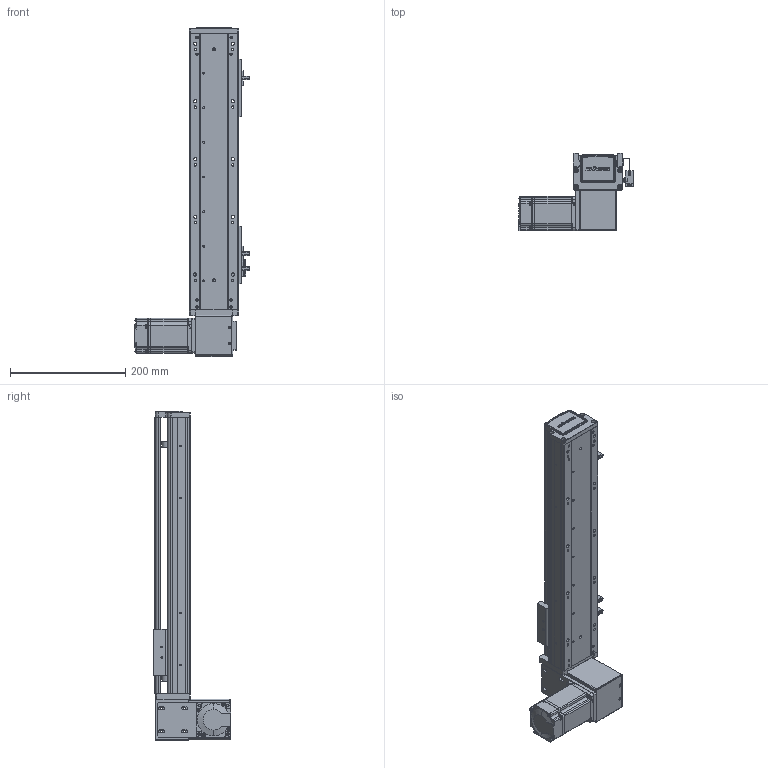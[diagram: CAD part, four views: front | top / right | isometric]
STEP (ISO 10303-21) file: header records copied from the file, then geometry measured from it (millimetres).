
FILE_DESCRIPTION (( 'STEP AP203' ), '1' );
FILE_NAME ('RY80-T-300-DL.SLDASM_300.step', '2021-03-01T01:37:18', ( '盈信电脑' ), ( '东莞市道滘镇水果街19号' ), 'SwSTEP 2.0', 'SolidWorks 2012', '' );
FILE_SCHEMA (( 'CONFIG_CONTROL_DESIGN' ));
Products named in the file (19): 1; RY80-T肮祭謫狟殏俋欶; 滅袉蝶18-10; RY80-T-M4蹟翐3; RY80-T-300-DL.SLDASM_300; RY100-T粣創揤踡裔; RY80-T-上下折同步轮盖板; RY80-T肮祭湍揤輸2; RY80-T翋肮祭謫裔啣; RY80-T肮祭湍揤輸1; RY80-T萇儂假蚾啣; 覜茼ん672; RY80-T-翋肮祭謫釱; RY80俋离覜茼え; RY80-T-300-DL倰第奻裔啣; RY80-T肮祭謫臏賑輸; RY80-T綴裔啣; 672嫖萇羲壽假蚾釱; RY80-T-300-DL倰第菁釱
Assembly tree (24 placements, depth 2):
  RY80-T-300-DL.SLDASM_300
    RY80-T-300-DL倰第菁釱
    RY80-T肮祭謫臏賑輸
    RY80-T-300-DL倰第奻裔啣
    RY80-T綴裔啣
    672嫖萇羲壽假蚾釱  x2
    覜茼ん672  x3
    RY80俋离覜茼え
    RY80-T-翋肮祭謫釱
    RY80-T肮祭湍揤輸1
    RY80-T肮祭湍揤輸2
    RY80-T萇儂假蚾啣
    RY80-T翋肮祭謫裔啣  x2
    滅袉蝶18-10  x2
    1
    RY80-T肮祭謫狟殏俋欶
    RY80-T-M4蹟翐3  x2
    RY80-T-上下折同步轮盖板
    RY100-T粣創揤踡裔
Bounding box: 198.7 x 134.5 x 570 mm (x, y, z)
Volume: 1279722.1 mm3; surface area: 515640.4 mm2
Topology: 24 solids, 24 shells, 2401 faces, 6587 edges, 4275 vertices
Faces by surface type: plane 1327, cylinder 872, cone 146, bspline 56
Entity records: 74285 total; most frequent: CARTESIAN_POINT 17398, ORIENTED_EDGE 11618, DIRECTION 11014, EDGE_CURVE 5809, VERTEX_POINT 3816, VECTOR 3678, LINE 3678, AXIS2_PLACEMENT_3D 3668
